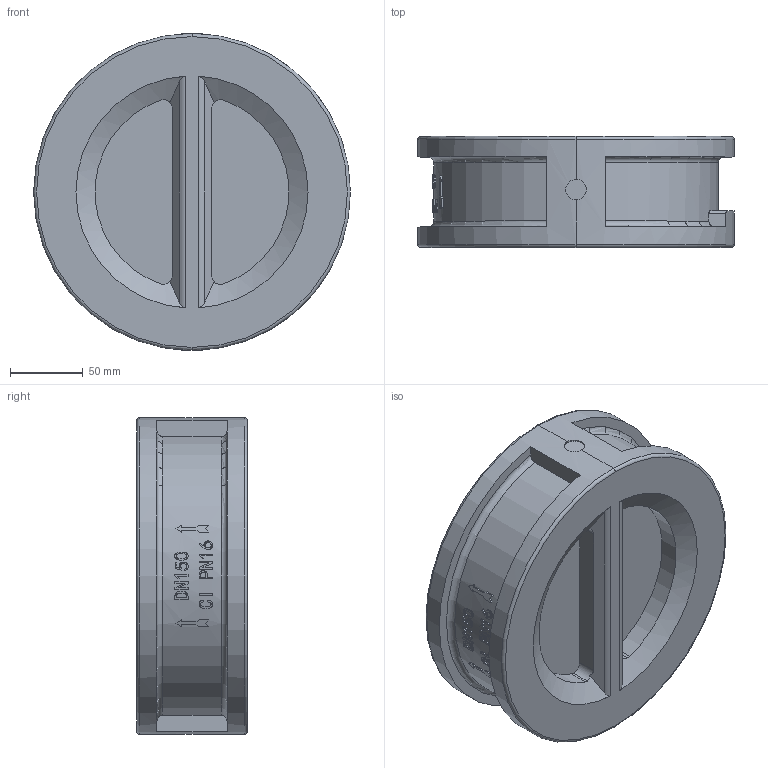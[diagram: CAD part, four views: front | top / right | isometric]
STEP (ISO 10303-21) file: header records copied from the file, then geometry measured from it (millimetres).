
FILE_DESCRIPTION (( 'STEP AP214' ), '1' );
FILE_NAME ('150砦隙.STEP', '2024-06-29T12:45:12', ( '' ), ( '' ), 'SwSTEP 2.0', 'SolidWorks 2021', '' );
FILE_SCHEMA (( 'AUTOMOTIVE_DESIGN' ));
Length unit declared in the file: millimetre
Products named in the file (1): 150砦隙
Bounding box: 217 x 76 x 217 mm (x, y, z)
Volume: 1308768.9 mm3; surface area: 185872.9 mm2
Topology: 1 solids, 1 shells, 210 faces, 551 edges, 366 vertices
Faces by surface type: plane 118, cylinder 49, bspline 32, torus 9, cone 2
Entity records: 10215 total; most frequent: CARTESIAN_POINT 5241, ORIENTED_EDGE 1102, DIRECTION 894, EDGE_CURVE 551, VERTEX_POINT 366, AXIS2_PLACEMENT_3D 316, LINE 262, VECTOR 262
